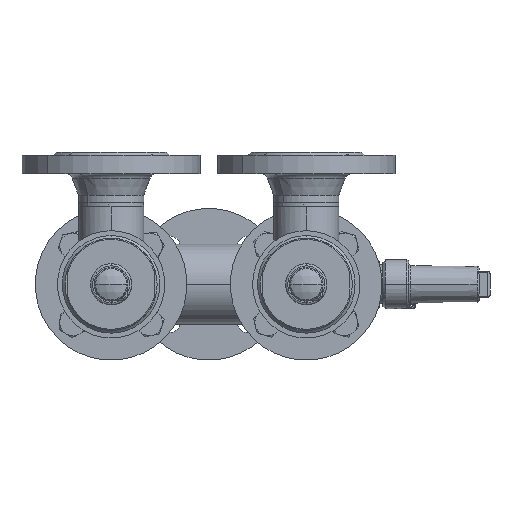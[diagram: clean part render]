
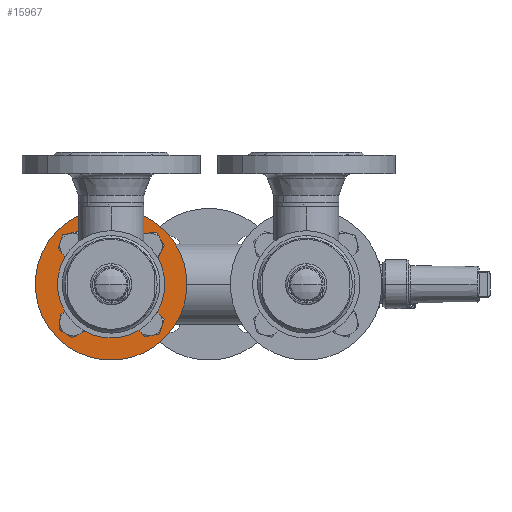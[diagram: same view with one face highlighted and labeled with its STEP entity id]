
A CAD part, left-side view. The second image highlights one B-rep face of the part: STEP entity #15967.
In plain terms, the highlighted planar face has unit normal (-1, 0, 0) as drawn and (0, 1, 0) by its records, which use the part's own axes.
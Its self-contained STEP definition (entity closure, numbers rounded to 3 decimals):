
#16890 = CARTESIAN_POINT ( 'NONE',  ( -32.147, 18., 0. ) ) ;
#16938 = CARTESIAN_POINT ( 'NONE',  ( -70., 18., 0. ) ) ;
#665 = CIRCLE ( 'NONE', #666, 9. ) ;
#666 = AXIS2_PLACEMENT_3D ( 'NONE', #667, #668, #669 ) ;
#667 = CARTESIAN_POINT ( 'NONE',  ( 0., 18., 50. ) ) ;
#668 = DIRECTION ( 'NONE',  ( 0., 1., 0. ) ) ;
#669 = DIRECTION ( 'NONE',  ( 0., 0., -1. ) ) ;
#33457 = VERTEX_POINT ( 'NONE', #26965 ) ;
#17137 = VERTEX_POINT ( 'NONE', #36000 ) ;
#17366 = VERTEX_POINT ( 'NONE', #36331 ) ;
#1144 = EDGE_LOOP ( 'NONE', ( #25103, #24914 ) ) ;
#33920 = EDGE_CURVE ( 'NONE', #7125, #33457, #27570, .T. ) ;
#34090 = FACE_BOUND ( 'NONE', #4229, .T. ) ;
#34091 = FACE_BOUND ( 'NONE', #2935, .T. ) ;
#34092 = FACE_BOUND ( 'NONE', #43709, .T. ) ;
#34093 = FACE_BOUND ( 'NONE', #12431, .T. ) ;
#34094 = FACE_BOUND ( 'NONE', #1144, .T. ) ;
#34095 = FACE_OUTER_BOUND ( 'NONE', #40049, .T. ) ;
#34096 = PLANE ( 'NONE',  #34122 ) ;
#34122 = AXIS2_PLACEMENT_3D ( 'NONE', #34123, #34124, #34125 ) ;
#34123 = CARTESIAN_POINT ( 'NONE',  ( 70., 18., 0. ) ) ;
#34124 = DIRECTION ( 'NONE',  ( 0., -1., 0. ) ) ;
#34125 = DIRECTION ( 'NONE',  ( 1., 0., 0. ) ) ;
#1738 = CARTESIAN_POINT ( 'NONE',  ( 9., 18., 50. ) ) ;
#18403 = EDGE_CURVE ( 'NONE', #20698, #28462, #40084, .T. ) ;
#2078 = CARTESIAN_POINT ( 'NONE',  ( 32.147, 18., 0. ) ) ;
#18902 = VERTEX_POINT ( 'NONE', #43350 ) ;
#2935 = EDGE_LOOP ( 'NONE', ( #7181, #14384 ) ) ;
#35843 = CARTESIAN_POINT ( 'NONE',  ( -9., 18., -50. ) ) ;
#3096 = ORIENTED_EDGE ( 'NONE', *, *, #42786, .F. ) ;
#36000 = CARTESIAN_POINT ( 'NONE',  ( 41., 18., 0. ) ) ;
#36331 = CARTESIAN_POINT ( 'NONE',  ( 59., 18., 0. ) ) ;
#3832 = CARTESIAN_POINT ( 'NONE',  ( 70., 18., 0. ) ) ;
#20428 = ORIENTED_EDGE ( 'NONE', *, *, #40271, .F. ) ;
#36837 = VERTEX_POINT ( 'NONE', #30699 ) ;
#4229 = EDGE_LOOP ( 'NONE', ( #10031, #3096 ) ) ;
#20698 = VERTEX_POINT ( 'NONE', #2078 ) ;
#4516 = ORIENTED_EDGE ( 'NONE', *, *, #31515, .F. ) ;
#21822 = VERTEX_POINT ( 'NONE', #3832 ) ;
#38310 = CIRCLE ( 'NONE', #38347, 9. ) ;
#38347 = AXIS2_PLACEMENT_3D ( 'NONE', #38348, #38349, #38350 ) ;
#38348 = CARTESIAN_POINT ( 'NONE',  ( 50., 18., 0. ) ) ;
#38349 = DIRECTION ( 'NONE',  ( 0., 1., 0. ) ) ;
#38350 = DIRECTION ( 'NONE',  ( -1., 0., 0. ) ) ;
#38510 = CIRCLE ( 'NONE', #38511, 9. ) ;
#38511 = AXIS2_PLACEMENT_3D ( 'NONE', #38512, #38513, #38514 ) ;
#38512 = CARTESIAN_POINT ( 'NONE',  ( -50., 18., 0. ) ) ;
#22132 = CIRCLE ( 'NONE', #22133, 9. ) ;
#22133 = AXIS2_PLACEMENT_3D ( 'NONE', #22134, #22135, #22136 ) ;
#22134 = CARTESIAN_POINT ( 'NONE',  ( -50., 18., 0. ) ) ;
#22135 = DIRECTION ( 'NONE',  ( 0., 1., 0. ) ) ;
#22136 = DIRECTION ( 'NONE',  ( 1., 0., 0. ) ) ;
#38513 = DIRECTION ( 'NONE',  ( 0., 1., 0. ) ) ;
#38514 = DIRECTION ( 'NONE',  ( 1., 0., 0. ) ) ;
#5986 = EDGE_CURVE ( 'NONE', #33457, #7125, #665, .T. ) ;
#22432 = CIRCLE ( 'NONE', #22433, 9. ) ;
#22433 = AXIS2_PLACEMENT_3D ( 'NONE', #22434, #22435, #22436 ) ;
#22434 = CARTESIAN_POINT ( 'NONE',  ( 0., 18., -50. ) ) ;
#22435 = DIRECTION ( 'NONE',  ( 0., 1., 0. ) ) ;
#22436 = DIRECTION ( 'NONE',  ( 0., 0., 1. ) ) ;
#22536 = CIRCLE ( 'NONE', #22537, 9. ) ;
#22537 = AXIS2_PLACEMENT_3D ( 'NONE', #22538, #22539, #22540 ) ;
#22538 = CARTESIAN_POINT ( 'NONE',  ( 50., 18., 0. ) ) ;
#22539 = DIRECTION ( 'NONE',  ( 0., 1., 0. ) ) ;
#22540 = DIRECTION ( 'NONE',  ( -1., 0., 0. ) ) ;
#6371 = ORIENTED_EDGE ( 'NONE', *, *, #5986, .F. ) ;
#6397 = CIRCLE ( 'NONE', #6398, 70. ) ;
#6398 = AXIS2_PLACEMENT_3D ( 'NONE', #6399, #6400, #6401 ) ;
#6399 = CARTESIAN_POINT ( 'NONE',  ( 0., 18., 0. ) ) ;
#6400 = DIRECTION ( 'NONE',  ( 0., 1., 0. ) ) ;
#6401 = DIRECTION ( 'NONE',  ( -1., 0., 0. ) ) ;
#39347 = VERTEX_POINT ( 'NONE', #35843 ) ;
#23377 = EDGE_CURVE ( 'NONE', #28503, #21822, #6397, .T. ) ;
#7125 = VERTEX_POINT ( 'NONE', #1738 ) ;
#7181 = ORIENTED_EDGE ( 'NONE', *, *, #13842, .F. ) ;
#40049 = EDGE_LOOP ( 'NONE', ( #30108, #15082 ) ) ;
#40084 = CIRCLE ( 'NONE', #40085, 32.147 ) ;
#40085 = AXIS2_PLACEMENT_3D ( 'NONE', #40086, #40087, #40125 ) ;
#40086 = CARTESIAN_POINT ( 'NONE',  ( 0., 18., 0. ) ) ;
#40087 = DIRECTION ( 'NONE',  ( 0., 1., 0. ) ) ;
#40125 = DIRECTION ( 'NONE',  ( -1., 0., 0. ) ) ;
#40271 = EDGE_CURVE ( 'NONE', #17366, #17137, #38310, .T. ) ;
#40546 = EDGE_CURVE ( 'NONE', #8992, #36837, #38510, .T. ) ;
#24914 = ORIENTED_EDGE ( 'NONE', *, *, #18403, .F. ) ;
#25103 = ORIENTED_EDGE ( 'NONE', *, *, #42085, .F. ) ;
#41585 = CIRCLE ( 'NONE', #41586, 32.147 ) ;
#41586 = AXIS2_PLACEMENT_3D ( 'NONE', #41625, #41626, #41627 ) ;
#41625 = CARTESIAN_POINT ( 'NONE',  ( 0., 18., 0. ) ) ;
#41626 = DIRECTION ( 'NONE',  ( 0., 1., 0. ) ) ;
#41627 = DIRECTION ( 'NONE',  ( -1., 0., 0. ) ) ;
#25325 = ORIENTED_EDGE ( 'NONE', *, *, #33920, .F. ) ;
#8992 = VERTEX_POINT ( 'NONE', #15386 ) ;
#42085 = EDGE_CURVE ( 'NONE', #28462, #20698, #41585, .T. ) ;
#42342 = CIRCLE ( 'NONE', #42343, 9. ) ;
#42343 = AXIS2_PLACEMENT_3D ( 'NONE', #42344, #42345, #42346 ) ;
#42344 = CARTESIAN_POINT ( 'NONE',  ( 0., 18., -50. ) ) ;
#42345 = DIRECTION ( 'NONE',  ( 0., 1., 0. ) ) ;
#42346 = DIRECTION ( 'NONE',  ( 0., 0., 1. ) ) ;
#10031 = ORIENTED_EDGE ( 'NONE', *, *, #31473, .F. ) ;
#42786 = EDGE_CURVE ( 'NONE', #18902, #39347, #42342, .T. ) ;
#26965 = CARTESIAN_POINT ( 'NONE',  ( -9., 18., 50. ) ) ;
#43350 = CARTESIAN_POINT ( 'NONE',  ( 9., 18., -50. ) ) ;
#43709 = EDGE_LOOP ( 'NONE', ( #6371, #25325 ) ) ;
#27570 = CIRCLE ( 'NONE', #27571, 9. ) ;
#27571 = AXIS2_PLACEMENT_3D ( 'NONE', #27572, #27573, #27574 ) ;
#27572 = CARTESIAN_POINT ( 'NONE',  ( 0., 18., 50. ) ) ;
#27573 = DIRECTION ( 'NONE',  ( 0., 1., 0. ) ) ;
#27574 = DIRECTION ( 'NONE',  ( 0., 0., -1. ) ) ;
#28462 = VERTEX_POINT ( 'NONE', #16890 ) ;
#28503 = VERTEX_POINT ( 'NONE', #16938 ) ;
#12431 = EDGE_LOOP ( 'NONE', ( #4516, #20428 ) ) ;
#30108 = ORIENTED_EDGE ( 'NONE', *, *, #23377, .T. ) ;
#13842 = EDGE_CURVE ( 'NONE', #36837, #8992, #22132, .T. ) ;
#30699 = CARTESIAN_POINT ( 'NONE',  ( -59., 18., 0. ) ) ;
#14384 = ORIENTED_EDGE ( 'NONE', *, *, #40546, .F. ) ;
#14882 = EDGE_CURVE ( 'NONE', #21822, #28503, #32661, .T. ) ;
#15082 = ORIENTED_EDGE ( 'NONE', *, *, #14882, .T. ) ;
#31473 = EDGE_CURVE ( 'NONE', #39347, #18902, #22432, .T. ) ;
#31515 = EDGE_CURVE ( 'NONE', #17137, #17366, #22536, .T. ) ;
#15386 = CARTESIAN_POINT ( 'NONE',  ( -41., 18., 0. ) ) ;
#15967 = ADVANCED_FACE ( 'NONE', ( #34090, #34091, #34092, #34093, #34094, #34095 ), #34096, .F. ) ;
#32661 = CIRCLE ( 'NONE', #32662, 70. ) ;
#32662 = AXIS2_PLACEMENT_3D ( 'NONE', #32663, #32664, #32665 ) ;
#32663 = CARTESIAN_POINT ( 'NONE',  ( 0., 18., 0. ) ) ;
#32664 = DIRECTION ( 'NONE',  ( 0., 1., 0. ) ) ;
#32665 = DIRECTION ( 'NONE',  ( -1., 0., 0. ) ) ;
